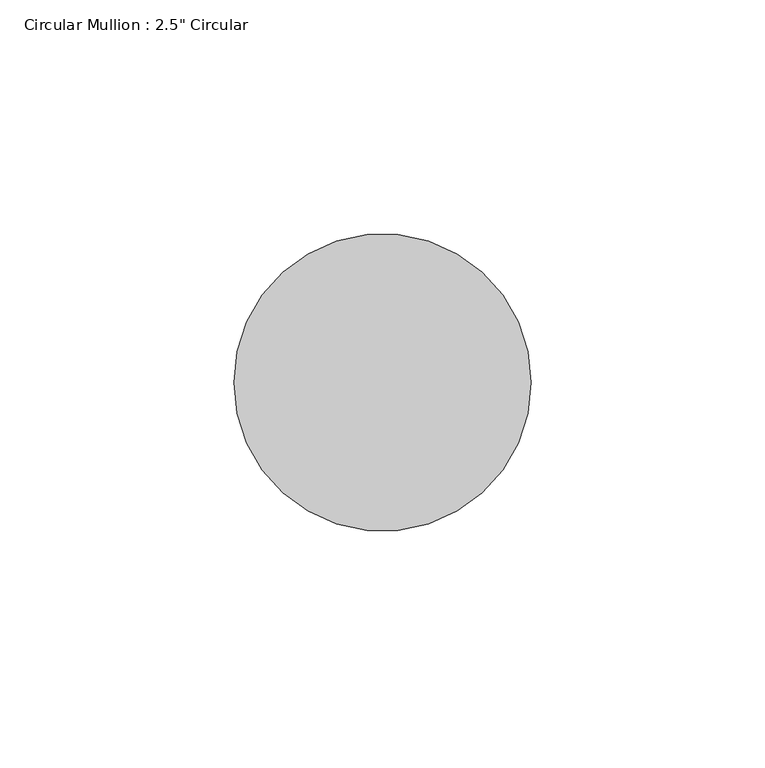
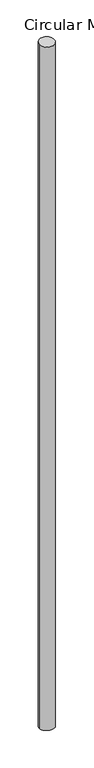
"""IFC4 building model written with IfcOpenShell, lengths in millimetres: member geometry."""

from ifc_helpers import new_model, si_unit, frame, origin, origin_with_axes, place, context, project, spatial, ellipse_curve, source, transform, mapped, element, save
from ifc_brep_helpers import plane_surface, cylinder_surface, advanced_brep


def member_e5f856a1(model_context):
    return source(origin(), model_context, "Body", "AdvancedBrep", [
        advanced_brep(
        [(-31.75, 0.0, 0.0955269), (31.75, 0.0, -0.0955269), (31.75, 0.0, -3056.2536095), (-31.75, 0.0, -3056.1274295)],
        [
            (0, 1, ellipse_curve(frame((0.0, 0.0, 0.0), z_axis=(-0.0030055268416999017, 0.045963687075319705, -0.9989385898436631), x_axis=(-0.06518055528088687, 0.9968098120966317, 0.04606184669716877)), 31.7837356, 31.75)),
            (1, 2),
            (2, 3, ellipse_curve(frame((0.0, 0.0, -3056.1905195), z_axis=(0.001983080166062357, 0.06344182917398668, 0.9979835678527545), x_axis=(-0.031179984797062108, -0.9974963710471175, 0.0634728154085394)), 31.8141511, 31.75)),
            (3, 0),
            (1, 0, ellipse_curve(frame((0.0, 0.0, 0.0), z_axis=(-0.0030055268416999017, 0.045963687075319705, -0.9989385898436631), x_axis=(-0.06518055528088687, 0.9968098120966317, 0.04606184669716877)), 31.7837356, 31.75)),
            (3, 2, ellipse_curve(frame((0.0, 0.0, -3056.1905195), z_axis=(0.001983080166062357, 0.06344182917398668, 0.9979835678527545), x_axis=(-0.031179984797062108, -0.9974963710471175, 0.0634728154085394)), 31.8141511, 31.75)),
        ],
        [
            cylinder_surface(origin_with_axes(), 31.75),
            plane_surface(frame((304.1504591, 19.8881427, 0.0), z_axis=(0.0030055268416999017, -0.045963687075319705, 0.9989385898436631), x_axis=(0.06518055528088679, -0.9968098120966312, -0.04606184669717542))),
            plane_surface(frame((304.6512024, -9.5228616, -3056.1905195), z_axis=(-0.0019830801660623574, -0.06344182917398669, -0.9979835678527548), x_axis=(-0.031179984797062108, -0.9974963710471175, 0.063472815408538))),
        ],
        [
            (0, [[1, 2, 3, 4]]),
            (0, [[5, -4, 6, -2]]),
            (1, [[-1, -5]]),
            (2, [[-6, -3]]),
        ],
    ),
    ])


if __name__ == "__main__":
    model = new_model("IFC4")
    model_context = context("Model", 3, world=origin())
    ifc_project = project(units=[si_unit("LENGTHUNIT", "METRE", prefix="MILLI")], contexts=[model_context])
    site = spatial("IfcSite", under=ifc_project)
    building = spatial("IfcBuilding", under=site)
    placement = place(None, origin())
    member_shape = member_e5f856a1(model_context)
    element("IfcMember", 1, ObjectType="Circular Mullion : 2.5\" Circular", at=placement, inside=building, context=model_context, shape_type="MappedRepresentation", body=[
        mapped(member_shape, transform((0.0, 0.0, 0.0), x_axis=(1.0, 0.0, 0.0), y_axis=(0.0, 1.0, 0.0), z_axis=(0.0, 0.0, 1.0))),
    ])
    save(model, "model.ifc")
